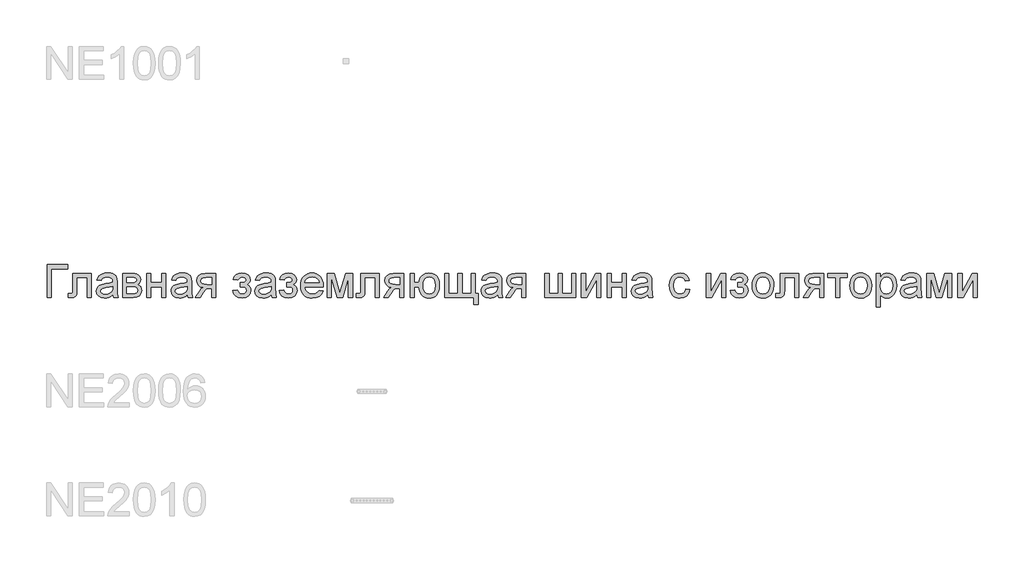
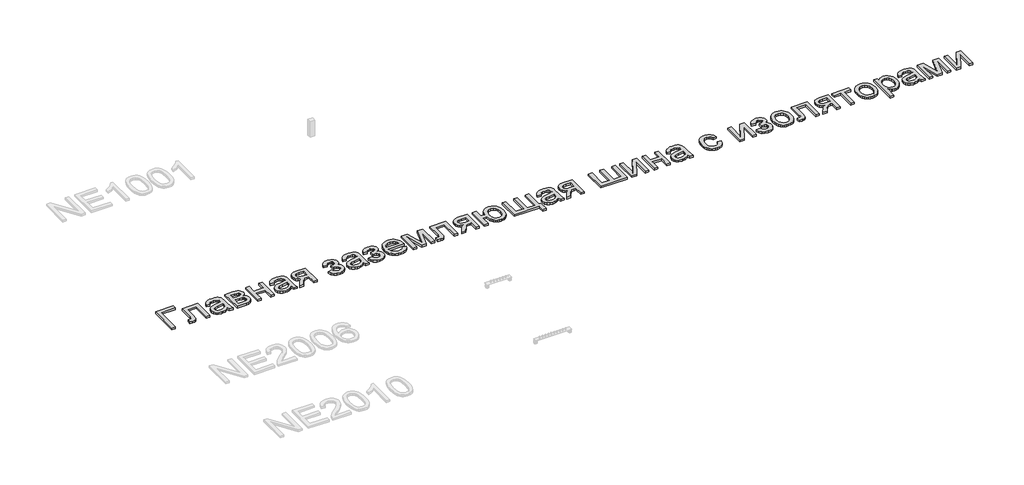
# One storey, part 81 of 124: 1 proxy.
"""IFC4 building model written with IfcOpenShell, lengths in millimetres."""

from ifc_helpers import new_model, si_unit, origin, origin_with_axes, place, context, project, spatial, polyline, outline, extrude, element, save

model = new_model("IFC4")

# Units and contexts
model_context = context("Model", 3, world=origin())
ifc_project = project(units=[si_unit("LENGTHUNIT", "METRE", prefix="MILLI")], contexts=[model_context])

# Site, building, storey
site = spatial("IfcSite", under=ifc_project)
building = spatial("IfcBuilding", under=site)
storey = spatial("IfcBuildingStorey", under=building, Name="Этаж 01", Elevation=0.0)

# Proxy
placement = place(None, origin())
element("IfcBuildingElementProxy", 1, Name="300", ObjectType="300", at=placement, inside=storey, context=model_context, shape_type="SweptSolid", body=[
    extrude(outline(polyline([(45244.5764277, -52773.1294316), (45432.9320092, -52773.1294316), (45432.9320092, -52810.8005479), (45282.247544, -52810.8005479), (45282.247544, -53074.498362), (45244.5764277, -53074.498362), (45244.5764277, -52773.1294316)])), origin_with_axes(), (0.0, 0.0, 1.0), 20.0),
    extrude(outline(polyline([(45480.0209046, -52853.1805537), (45649.540928, -52853.1805537), (45649.540928, -53074.2776328), (45611.8698117, -53074.2776328), (45611.8698117, -52890.85167), (45517.6920209, -52890.85167), (45517.6920209, -52996.4338026), (45515.1536351, -53045.1413788), (45510.3987604, -53056.1686416), (45501.2109075, -53065.7059823), (45487.2681799, -53072.3002671), (45468.2486808, -53074.498362), (45437.6408988, -53072.5853756), (45437.6408988, -53036.8272457), (45454.4898941, -53036.8272457), (45471.5228305, -53034.5095891), (45478.3286474, -53027.1519492), (45480.0209046, -52994.3000871), (45480.0209046, -52853.1805537)])), origin_with_axes(), (0.0, 0.0, 1.0), 20.0),
    extrude(outline(polyline([(45847.3142886, -53046.2450248), (45829.315662, -53061.6776745), (45810.7836065, -53071.7760352), (45791.2950578, -53077.3494475), (45770.4269516, -53079.2072515), (45738.9454499, -53074.7374853), (45715.7228989, -53061.3281866), (45701.4030922, -53040.9659181), (45696.6298234, -53015.6372428), (45698.4324451, -53000.0206521), (45703.8403105, -52985.8388012), (45712.1820347, -52973.6986953), (45722.7862332, -52964.2073398), (45749.1633723, -52951.8465048), (45781.757717, -52946.1811221), (45820.2749619, -52940.2214338), (45847.0935594, -52933.2316759), (45847.3142886, -52924.8439664), (45844.7207205, -52908.0317592), (45836.9400163, -52897.0320875), (45819.5391979, -52888.8651072), (45795.2957745, -52886.1427805), (45772.8549728, -52887.9545993), (45757.1831998, -52893.3900558), (45746.4962278, -52903.4424313), (45739.0098292, -52919.1050072), (45701.3387129, -52914.3961177), (45707.8778154, -52893.794726), (45717.6358853, -52877.6079182), (45731.5234306, -52865.228689), (45750.4509593, -52856.0500333), (45773.5999338, -52850.3662564), (45800.1518168, -52848.4716642), (45825.6184479, -52850.1455272), (45845.8059724, -52855.1671165), (45861.02709, -52862.7178944), (45871.5945003, -52871.9793237), (45878.6026523, -52883.4296508), (45883.1459949, -52897.5471223), (45884.9854049, -52930.5093491), (45884.9854049, -52977.3775153), (45886.8983913, -53042.8237222), (45894.403184, -53074.498362), (45856.7320677, -53074.498362), (45847.3142886, -53046.2450248)]), holes=[polyline([(45847.3142886, -52970.9027922), (45786.540183, -52982.4542868), (45754.1297792, -52988.5611279), (45739.4512876, -52998.4939418), (45734.3009397, -53012.9884924), (45737.1060399, -53024.1904992), (45745.5213405, -53033.3691549), (45759.3629006, -53039.4943902), (45778.4467791, -53041.5361352), (45798.6802888, -53039.282858), (45816.5593538, -53032.5230264), (45831.0539044, -53022.5626213), (45841.1338711, -53010.707624), (45845.6036373, -52998.4939418), (45847.0935594, -52981.57137), (45847.3142886, -52970.9027922)])]), origin_with_axes(), (0.0, 0.0, 1.0), 20.0),
    extrude(outline(polyline([(45936.7831898, -52853.1805537), (46019.7773679, -52853.1805537), (46046.4580096, -52854.4405495), (46065.2843707, -52858.220537), (46079.1351278, -52865.3574477), (46090.8889576, -52876.6882132), (46098.9179821, -52891.4494783), (46101.5943237, -52908.8778878), (46099.9756429, -52922.9217829), (46095.1196005, -52935.0342976), (46087.0078025, -52945.2706141), (46075.6218548, -52953.6859148), (46089.5645824, -52961.5126042), (46100.9321361, -52974.1033655), (46108.4921111, -52990.4649173), (46111.0121027, -53009.6039781), (46104.6293501, -53038.3171678), (46089.4542178, -53058.5322834), (46065.4315235, -53070.5068424), (46032.506085, -53074.498362), (45936.7831898, -53074.498362), (45936.7831898, -52853.1805537)]), holes=[polyline([(45974.4543061, -52937.9405654), (46011.683964, -52937.9405654), (46042.4021106, -52936.027579), (46057.3381196, -52928.3756335), (46062.2769354, -52922.0480632), (46063.9232073, -52914.5432705), (46061.0353337, -52903.3044755), (46052.3717127, -52896.0755943), (46036.7183338, -52892.1576511), (46012.8611864, -52890.85167), (45974.4543061, -52890.85167), (45974.4543061, -52937.9405654)]), polyline([(45974.4543061, -53036.8272457), (46020.6602847, -53036.8272457), (46045.8418073, -53035.1257915), (46061.642339, -53030.0214288), (46070.122019, -53020.7416055), (46073.3409864, -53006.5137693), (46071.7315027, -52997.0867932), (46066.9030515, -52988.3771869), (46059.4902293, -52981.562173), (46050.1276325, -52977.8189737), (46016.9814648, -52975.6116817), (45974.4543061, -52975.6116817), (45974.4543061, -53036.8272457)])]), origin_with_axes(), (0.0, 0.0, 1.0), 20.0),
    extrude(outline(polyline([(46158.1009981, -52853.1805537), (46195.7721144, -52853.1805537), (46195.7721144, -52937.9405654), (46294.6587947, -52937.9405654), (46294.6587947, -52853.1805537), (46332.329911, -52853.1805537), (46332.329911, -53074.498362), (46294.6587947, -53074.498362), (46294.6587947, -52975.6116817), (46195.7721144, -52975.6116817), (46195.7721144, -53074.498362), (46158.1009981, -53074.498362), (46158.1009981, -52853.1805537)])), origin_with_axes(), (0.0, 0.0, 1.0), 20.0),
    extrude(outline(polyline([(46530.1032716, -53046.2450248), (46512.104645, -53061.6776745), (46493.5725895, -53071.7760352), (46474.0840408, -53077.3494475), (46453.2159346, -53079.2072515), (46421.7344329, -53074.7374853), (46398.511882, -53061.3281866), (46384.1920753, -53040.9659181), (46379.4188064, -53015.6372428), (46381.2214282, -53000.0206521), (46386.6292935, -52985.8388012), (46394.9710178, -52973.6986953), (46405.5752163, -52964.2073398), (46431.9523553, -52951.8465048), (46464.5467001, -52946.1811221), (46503.063945, -52940.2214338), (46529.8825424, -52933.2316759), (46530.1032716, -52924.8439664), (46527.5097036, -52908.0317592), (46519.7289994, -52897.0320875), (46502.328181, -52888.8651072), (46478.0847575, -52886.1427805), (46455.6439558, -52887.9545993), (46439.9721828, -52893.3900558), (46429.2852109, -52903.4424313), (46421.7988123, -52919.1050072), (46384.1276959, -52914.3961177), (46390.6667984, -52893.794726), (46400.4248683, -52877.6079182), (46414.3124137, -52865.228689), (46433.2399423, -52856.0500333), (46456.3889168, -52850.3662564), (46482.9407999, -52848.4716642), (46508.407431, -52850.1455272), (46528.5949555, -52855.1671165), (46543.816073, -52862.7178944), (46554.3834833, -52871.9793237), (46561.3916353, -52883.4296508), (46565.934978, -52897.5471223), (46567.7743879, -52930.5093491), (46567.7743879, -52977.3775153), (46569.6873743, -53042.8237222), (46577.192167, -53074.498362), (46539.5210507, -53074.498362), (46530.1032716, -53046.2450248)]), holes=[polyline([(46530.1032716, -52970.9027922), (46469.329166, -52982.4542868), (46436.9187623, -52988.5611279), (46422.2402706, -52998.4939418), (46417.0899227, -53012.9884924), (46419.8950229, -53024.1904992), (46428.3103236, -53033.3691549), (46442.1518836, -53039.4943902), (46461.2357621, -53041.5361352), (46481.4692719, -53039.282858), (46499.3483368, -53032.5230264), (46513.8428874, -53022.5626213), (46523.9228541, -53010.707624), (46528.3926204, -52998.4939418), (46529.8825424, -52981.57137), (46530.1032716, -52970.9027922)])]), origin_with_axes(), (0.0, 0.0, 1.0), 20.0),
    extrude(outline(polyline([(46789.0921962, -52853.1805537), (46789.0921962, -53074.498362), (46751.4210799, -53074.498362), (46751.4210799, -52989.7383503), (46730.8932646, -52989.7383503), (46702.934233, -52994.5208163), (46691.7690144, -53004.9502708), (46676.6674585, -53026.6737026), (46646.6482877, -53074.498362), (46603.0910595, -53074.498362), (46640.9093286, -53014.018562), (46657.6111712, -52992.3135243), (46672.9886386, -52982.675016), (46647.2368989, -52974.7839472), (46629.1371047, -52959.7927559), (46618.4317387, -52939.8535518), (46614.8632833, -52917.1184445), (46619.7377198, -52891.3299166), (46634.3610291, -52870.9124659), (46658.2181765, -52857.6135317), (46690.7941271, -52853.1805537), (46789.0921962, -52853.1805537)]), holes=[polyline([(46751.4210799, -52890.85167), (46701.7570106, -52890.85167), (46676.1064385, -52893.0313708), (46661.5475085, -52899.5704733), (46654.7876768, -52909.0342376), (46652.5343996, -52919.987924), (46655.8545346, -52934.3445189), (46665.8149397, -52944.3049239), (46684.2182365, -52950.1266565), (46712.8670468, -52952.067234), (46751.4210799, -52952.067234), (46751.4210799, -52890.85167)])]), origin_with_axes(), (0.0, 0.0, 1.0), 20.0),
    extrude(outline(polyline([(47015.1188941, -52975.6116817), (47015.1188941, -52937.9405654), (47044.8437593, -52936.4690374), (47059.8533447, -52928.6331509), (47065.1508454, -52921.2847081), (47066.916679, -52912.2624021), (47064.5530372, -52901.547839), (47057.4621117, -52893.242903), (47046.637184, -52887.9178111), (47033.0715354, -52886.1427805), (47019.3587341, -52887.908614), (47007.8716188, -52893.2061148), (46998.6101895, -52902.0352827), (46991.5744464, -52914.3961177), (46949.1944405, -52909.6872282), (46960.4332355, -52882.9054189), (46977.5213542, -52863.7755552), (47000.4587966, -52852.2976369), (47029.2455627, -52848.4716642), (47060.7362615, -52853.1345685), (47084.5750148, -52867.1232813), (47099.5846002, -52887.5867173), (47104.5877953, -52911.6737909), (47102.8081661, -52924.034626), (47097.4692787, -52935.0710858), (47088.5711329, -52944.7831705), (47076.1137289, -52953.17088), (47090.6542647, -52963.6371228), (47101.0193399, -52976.6417513), (47107.2273486, -52992.2215538), (47109.2966848, -53010.4133184), (47104.0451694, -53038.1424238), (47088.2906229, -53060.114176), (47063.0999033, -53074.4339827), (47029.5398683, -53079.2072515), (46996.7155973, -53074.7926676), (46971.598454, -53061.5489158), (46954.1884386, -53039.4759961), (46944.485551, -53008.5739085), (46986.8655568, -53003.8650189), (46993.2115213, -53019.7943093), (47003.861705, -53031.6768978), (47017.5837034, -53039.0713259), (47033.1451118, -53041.5361352), (47048.30185, -53039.1724934), (47060.6626851, -53032.081568), (47068.8848477, -53021.3118225), (47071.6255685, -53007.9117209), (47069.9241143, -52997.2983253), (47064.8197516, -52988.1196695), (47050.325201, -52977.5246681), (47022.476534, -52975.3909525), (47015.1188941, -52975.6116817)])), origin_with_axes(), (0.0, 0.0, 1.0), 20.0),
    extrude(outline(polyline([(47297.6522664, -53046.2450248), (47279.6536398, -53061.6776745), (47261.1215842, -53071.7760352), (47241.6330356, -53077.3494475), (47220.7649294, -53079.2072515), (47189.2834276, -53074.7374853), (47166.0608767, -53061.3281866), (47151.74107, -53040.9659181), (47146.9678011, -53015.6372428), (47148.7704229, -53000.0206521), (47154.1782883, -52985.8388012), (47162.5200125, -52973.6986953), (47173.124211, -52964.2073398), (47199.5013501, -52951.8465048), (47232.0956948, -52946.1811221), (47270.6129397, -52940.2214338), (47297.4315372, -52933.2316759), (47297.6522664, -52924.8439664), (47295.0586983, -52908.0317592), (47287.2779941, -52897.0320875), (47269.8771757, -52888.8651072), (47245.6337523, -52886.1427805), (47223.1929505, -52887.9545993), (47207.5211776, -52893.3900558), (47196.8342056, -52903.4424313), (47189.347807, -52919.1050072), (47151.6766907, -52914.3961177), (47158.2157931, -52893.794726), (47167.9738631, -52877.6079182), (47181.8614084, -52865.228689), (47200.788937, -52856.0500333), (47223.9379116, -52850.3662564), (47250.4897946, -52848.4716642), (47275.9564257, -52850.1455272), (47296.1439502, -52855.1671165), (47311.3650677, -52862.7178944), (47321.9324781, -52871.9793237), (47328.9406301, -52883.4296508), (47333.4839727, -52897.5471223), (47335.3233827, -52930.5093491), (47335.3233827, -52977.3775153), (47337.2363691, -53042.8237222), (47344.7411618, -53074.498362), (47307.0700454, -53074.498362), (47297.6522664, -53046.2450248)]), holes=[polyline([(47297.6522664, -52970.9027922), (47236.8781608, -52982.4542868), (47204.467757, -52988.5611279), (47189.7892654, -52998.4939418), (47184.6389175, -53012.9884924), (47187.4440177, -53024.1904992), (47195.8593183, -53033.3691549), (47209.7008784, -53039.4943902), (47228.7847569, -53041.5361352), (47249.0182666, -53039.282858), (47266.8973316, -53032.5230264), (47281.3918822, -53022.5626213), (47291.4718489, -53010.707624), (47295.9416151, -52998.4939418), (47297.4315372, -52981.57137), (47297.6522664, -52970.9027922)])]), origin_with_axes(), (0.0, 0.0, 1.0), 20.0),
    extrude(outline(polyline([(47438.9189525, -52975.6116817), (47438.9189525, -52937.9405654), (47468.6438177, -52936.4690374), (47483.6534031, -52928.6331509), (47488.9509039, -52921.2847081), (47490.7167374, -52912.2624021), (47488.3530956, -52901.547839), (47481.2621702, -52893.242903), (47470.4372425, -52887.9178111), (47456.8715939, -52886.1427805), (47443.1587925, -52887.908614), (47431.6716772, -52893.2061148), (47422.410248, -52902.0352827), (47415.3745048, -52914.3961177), (47372.994499, -52909.6872282), (47384.2332939, -52882.9054189), (47401.3214126, -52863.7755552), (47424.258855, -52852.2976369), (47453.0456211, -52848.4716642), (47484.5363199, -52853.1345685), (47508.3750732, -52867.1232813), (47523.3846586, -52887.5867173), (47528.3878537, -52911.6737909), (47526.6082246, -52924.034626), (47521.2693371, -52935.0710858), (47512.3711914, -52944.7831705), (47499.9137873, -52953.17088), (47514.4543232, -52963.6371228), (47524.8193984, -52976.6417513), (47531.0274071, -52992.2215538), (47533.0967433, -53010.4133184), (47527.8452278, -53038.1424238), (47512.0906814, -53060.114176), (47486.8999617, -53074.4339827), (47453.3399267, -53079.2072515), (47420.5156557, -53074.7926676), (47395.3985125, -53061.5489158), (47377.9884971, -53039.4759961), (47368.2856094, -53008.5739085), (47410.6656153, -53003.8650189), (47417.0115797, -53019.7943093), (47427.6617635, -53031.6768978), (47441.3837619, -53039.0713259), (47456.9451703, -53041.5361352), (47472.1019085, -53039.1724934), (47484.4627435, -53032.081568), (47492.6849061, -53021.3118225), (47495.425627, -53007.9117209), (47493.7241727, -52997.2983253), (47488.6198101, -52988.1196695), (47474.1252595, -52977.5246681), (47446.2765924, -52975.3909525), (47438.9189525, -52975.6116817)])), origin_with_axes(), (0.0, 0.0, 1.0), 20.0),
    extrude(outline(polyline([(47735.137535, -53008.5739085), (47772.0728874, -53013.282798), (47758.7647562, -53041.1130709), (47737.528768, -53061.9167978), (47708.8431694, -53074.8846381), (47673.186207, -53079.2072515), (47649.8119048, -53077.3425497), (47628.9851853, -53071.7484441), (47610.7060487, -53062.4249348), (47594.9744949, -53049.3720217), (47582.3239528, -53032.9529884), (47573.2878513, -53013.5311184), (47567.8661904, -52991.1064115), (47566.0589701, -52965.6788678), (47567.8845845, -52939.3891007), (47573.3614277, -52916.2171336), (47582.4894997, -52896.1629663), (47595.2688005, -52879.226599), (47610.9589676, -52865.771315), (47628.8196384, -52856.1603979), (47648.8508131, -52850.3938476), (47671.0524915, -52848.4716642), (47692.5390993, -52850.3892491), (47711.9701664, -52856.1420038), (47729.3456929, -52865.7299283), (47744.6656787, -52879.1530226), (47757.1713673, -52896.0526017), (47766.104002, -52916.0699808), (47771.4635828, -52939.2051598), (47773.2501097, -52965.4581386), (47773.0293805, -52975.6116817), (47603.7300864, -52975.6116817), (47610.2507947, -53003.8098366), (47625.3983359, -53024.5399871), (47647.2597234, -53037.2870982), (47673.921971, -53041.5361352), (47693.9715398, -53039.5679666), (47710.8573234, -53033.6634605), (47724.5793218, -53023.4547352), (47735.137535, -53008.5739085)]), holes=[polyline([(47603.7300864, -52937.9405654), (47735.5789934, -52937.9405654), (47730.4838278, -52918.0381495), (47720.4958316, -52903.8011162), (47698.5332765, -52890.5573644), (47670.9053387, -52886.1427805), (47645.512284, -52889.6652506), (47624.5154191, -52900.2326609), (47609.9197009, -52916.7045772), (47603.7300864, -52937.9405654)])]), origin_with_axes(), (0.0, 0.0, 1.0), 20.0),
    extrude(outline(polyline([(47810.921226, -52853.1805537), (47875.7420336, -52853.1805537), (47925.7004085, -53030.3525226), (47979.5583326, -52853.1805537), (48041.6568134, -52853.1805537), (48041.6568134, -53074.498362), (48003.9856971, -53074.498362), (48003.9856971, -52896.2963235), (47949.8334674, -53074.498362), (47900.3901273, -53074.498362), (47848.5923423, -52887.7614613), (47848.5923423, -53074.498362), (47810.921226, -53074.498362), (47810.921226, -52853.1805537)])), origin_with_axes(), (0.0, 0.0, 1.0), 20.0),
    extrude(outline(polyline([(48116.999046, -52853.1805537), (48286.5190694, -52853.1805537), (48286.5190694, -53074.2776328), (48248.8479531, -53074.2776328), (48248.8479531, -52890.85167), (48154.6701623, -52890.85167), (48154.6701623, -52996.4338026), (48152.1317766, -53045.1413788), (48147.3769018, -53056.1686416), (48138.189049, -53065.7059823), (48124.2463213, -53072.3002671), (48105.2268222, -53074.498362), (48074.6190402, -53072.5853756), (48074.6190402, -53036.8272457), (48091.4680356, -53036.8272457), (48108.5009719, -53034.5095891), (48115.3067889, -53027.1519492), (48116.999046, -52994.3000871), (48116.999046, -52853.1805537)])), origin_with_axes(), (0.0, 0.0, 1.0), 20.0),
    extrude(outline(polyline([(48512.5457672, -52853.1805537), (48512.5457672, -53074.498362), (48474.8746509, -53074.498362), (48474.8746509, -52989.7383503), (48454.3468356, -52989.7383503), (48426.387804, -52994.5208163), (48415.2225854, -53004.9502708), (48400.1210295, -53026.6737026), (48370.1018587, -53074.498362), (48326.5446305, -53074.498362), (48364.3628996, -53014.018562), (48381.0647422, -52992.3135243), (48396.4422096, -52982.675016), (48370.6904699, -52974.7839472), (48352.5906757, -52959.7927559), (48341.8853097, -52939.8535518), (48338.3168543, -52917.1184445), (48343.1912908, -52891.3299166), (48357.8146001, -52870.9124659), (48381.6717475, -52857.6135317), (48414.2476981, -52853.1805537), (48512.5457672, -52853.1805537)]), holes=[polyline([(48474.8746509, -52890.85167), (48425.2105816, -52890.85167), (48399.5600095, -52893.0313708), (48385.0010795, -52899.5704733), (48378.2412479, -52909.0342376), (48375.9879706, -52919.987924), (48379.3081056, -52934.3445189), (48389.2685107, -52944.3049239), (48407.6718075, -52950.1266565), (48436.3206178, -52952.067234), (48474.8746509, -52952.067234), (48474.8746509, -52890.85167)])]), origin_with_axes(), (0.0, 0.0, 1.0), 20.0),
    extrude(outline(polyline([(48569.0524417, -52853.1805537), (48606.723558, -52853.1805537), (48606.723558, -52937.9405654), (48649.1035639, -52937.9405654), (48658.8800279, -52899.5336851), (48667.4033938, -52884.1930059), (48678.3501825, -52871.4275007), (48691.4122926, -52861.3843222), (48706.281623, -52854.2106233), (48741.4419446, -52848.4716642), (48770.9920659, -52851.8469815), (48793.5708234, -52861.9729334), (48810.9900358, -52878.0217854), (48825.0615221, -52899.1658031), (48834.3597396, -52926.9776819), (48837.4591454, -52963.0301175), (48835.8565594, -52989.8855031), (48831.0488016, -53013.282798), (48823.0358719, -53033.2220021), (48811.8177703, -53049.7031155), (48797.8543493, -53062.611175), (48781.6054615, -53071.8312175), (48763.0711067, -53077.363243), (48742.251285, -53079.2072515), (48722.847809, -53077.4782062), (48705.4722826, -53072.29107), (48690.1247056, -53063.6458431), (48676.8050781, -53051.5425255), (48665.8444939, -53036.4225755), (48657.5740468, -53018.7274515), (48649.1035639, -52975.6116817), (48606.723558, -52975.6116817), (48606.723558, -53074.498362), (48569.0524417, -53074.498362), (48569.0524417, -52853.1805537)]), holes=[polyline([(48743.8699658, -52886.1427805), (48719.8564686, -52891.0172169), (48701.8210538, -52905.6405262), (48690.5362736, -52929.0562152), (48686.7746802, -52960.3077907), (48690.5638647, -52996.7189112), (48701.9314184, -53021.9280249), (48719.6449364, -53036.6341076), (48742.4720142, -53041.5361352), (48765.3634714, -53037.0019896), (48783.7115859, -53023.3995529), (48795.7689183, -52999.6987553), (48799.7880291, -52964.8695274), (48796.3115442, -52930.4265756), (48785.8820897, -52905.8244672), (48768.426089, -52891.0632022), (48743.8699658, -52886.1427805)])]), origin_with_axes(), (0.0, 0.0, 1.0), 20.0),
    extrude(outline(polyline([(48884.5480408, -52853.1805537), (48922.2191571, -52853.1805537), (48922.2191571, -53036.8272457), (49006.9791688, -53036.8272457), (49006.9791688, -52853.1805537), (49044.6502851, -52853.1805537), (49044.6502851, -53036.8272457), (49129.4102968, -53036.8272457), (49129.4102968, -52853.1805537), (49167.0814131, -52853.1805537), (49167.0814131, -53036.8272457), (49190.6258608, -53036.8272457), (49190.6258608, -53135.713926), (49152.9547444, -53135.713926), (49152.9547444, -53074.498362), (48884.5480408, -53074.498362), (48884.5480408, -52853.1805537)])), origin_with_axes(), (0.0, 0.0, 1.0), 20.0),
    extrude(outline(polyline([(49369.5636632, -53046.2450248), (49351.5650366, -53061.6776745), (49333.0329811, -53071.7760352), (49313.5444324, -53077.3494475), (49292.6763262, -53079.2072515), (49261.1948245, -53074.7374853), (49237.9722735, -53061.3281866), (49223.6524669, -53040.9659181), (49218.879198, -53015.6372428), (49220.6818198, -53000.0206521), (49226.0896851, -52985.8388012), (49234.4314093, -52973.6986953), (49245.0356078, -52964.2073398), (49271.4127469, -52951.8465048), (49304.0070917, -52946.1811221), (49342.5243366, -52940.2214338), (49369.342934, -52933.2316759), (49369.5636632, -52924.8439664), (49366.9700951, -52908.0317592), (49359.1893909, -52897.0320875), (49341.7885726, -52888.8651072), (49317.5451491, -52886.1427805), (49295.1043474, -52887.9545993), (49279.4325744, -52893.3900558), (49268.7456024, -52903.4424313), (49261.2592038, -52919.1050072), (49223.5880875, -52914.3961177), (49230.12719, -52893.794726), (49239.8852599, -52877.6079182), (49253.7728052, -52865.228689), (49272.7003339, -52856.0500333), (49295.8493084, -52850.3662564), (49322.4011914, -52848.4716642), (49347.8678225, -52850.1455272), (49368.055347, -52855.1671165), (49383.2764646, -52862.7178944), (49393.8438749, -52871.9793237), (49400.8520269, -52883.4296508), (49405.3953695, -52897.5471223), (49407.2347795, -52930.5093491), (49407.2347795, -52977.3775153), (49409.1477659, -53042.8237222), (49416.6525586, -53074.498362), (49378.9814423, -53074.498362), (49369.5636632, -53046.2450248)]), holes=[polyline([(49369.5636632, -52970.9027922), (49308.7895576, -52982.4542868), (49276.3791538, -52988.5611279), (49261.7006622, -52998.4939418), (49256.5503143, -53012.9884924), (49259.3554145, -53024.1904992), (49267.7707151, -53033.3691549), (49281.6122752, -53039.4943902), (49300.6961537, -53041.5361352), (49320.9296634, -53039.282858), (49338.8087284, -53032.5230264), (49353.303279, -53022.5626213), (49363.3832457, -53010.707624), (49367.8530119, -52998.4939418), (49369.342934, -52981.57137), (49369.5636632, -52970.9027922)])]), origin_with_axes(), (0.0, 0.0, 1.0), 20.0),
    extrude(outline(polyline([(49628.5525878, -52853.1805537), (49628.5525878, -53074.498362), (49590.8814715, -53074.498362), (49590.8814715, -52989.7383503), (49570.3536562, -52989.7383503), (49542.3946245, -52994.5208163), (49531.229406, -53004.9502708), (49516.1278501, -53026.6737026), (49486.1086793, -53074.498362), (49442.551451, -53074.498362), (49480.3697202, -53014.018562), (49497.0715627, -52992.3135243), (49512.4490301, -52982.675016), (49486.6972905, -52974.7839472), (49468.5974963, -52959.7927559), (49457.8921302, -52939.8535518), (49454.3236749, -52917.1184445), (49459.1981113, -52891.3299166), (49473.8214206, -52870.9124659), (49497.678568, -52857.6135317), (49530.2545187, -52853.1805537), (49628.5525878, -52853.1805537)]), holes=[polyline([(49590.8814715, -52890.85167), (49541.2174022, -52890.85167), (49515.56683, -52893.0313708), (49501.0079001, -52899.5704733), (49494.2480684, -52909.0342376), (49491.9947912, -52919.987924), (49495.3149262, -52934.3445189), (49505.2753312, -52944.3049239), (49523.678628, -52950.1266565), (49552.3274384, -52952.067234), (49590.8814715, -52952.067234), (49590.8814715, -52890.85167)])]), origin_with_axes(), (0.0, 0.0, 1.0), 20.0),
    extrude(outline(polyline([(49802.7815007, -52853.1805537), (49840.452617, -52853.1805537), (49840.452617, -53036.8272457), (49925.2126287, -53036.8272457), (49925.2126287, -52853.1805537), (49962.883745, -52853.1805537), (49962.883745, -53036.8272457), (50047.6437567, -53036.8272457), (50047.6437567, -52853.1805537), (50085.314873, -52853.1805537), (50085.314873, -53074.498362), (49802.7815007, -53074.498362), (49802.7815007, -52853.1805537)])), origin_with_axes(), (0.0, 0.0, 1.0), 20.0),
    extrude(outline(polyline([(50137.1126579, -52853.1805537), (50174.7837742, -52853.1805537), (50174.7837742, -53021.9648131), (50267.3428842, -52853.1805537), (50316.0504604, -52853.1805537), (50316.0504604, -53074.498362), (50278.3793441, -53074.498362), (50278.3793441, -52906.7441722), (50186.4088453, -53074.498362), (50137.1126579, -53074.498362), (50137.1126579, -52853.1805537)])), origin_with_axes(), (0.0, 0.0, 1.0), 20.0),
    extrude(outline(polyline([(50372.5571349, -52853.1805537), (50410.2282512, -52853.1805537), (50410.2282512, -52937.9405654), (50509.1149315, -52937.9405654), (50509.1149315, -52853.1805537), (50546.7860478, -52853.1805537), (50546.7860478, -53074.498362), (50509.1149315, -53074.498362), (50509.1149315, -52975.6116817), (50410.2282512, -52975.6116817), (50410.2282512, -53074.498362), (50372.5571349, -53074.498362), (50372.5571349, -52853.1805537)])), origin_with_axes(), (0.0, 0.0, 1.0), 20.0),
    extrude(outline(polyline([(50744.5594084, -53046.2450248), (50726.5607818, -53061.6776745), (50708.0287263, -53071.7760352), (50688.5401776, -53077.3494475), (50667.6720714, -53079.2072515), (50636.1905696, -53074.7374853), (50612.9680187, -53061.3281866), (50598.648212, -53040.9659181), (50593.8749432, -53015.6372428), (50595.6775649, -53000.0206521), (50601.0854303, -52985.8388012), (50609.4271545, -52973.6986953), (50620.031353, -52964.2073398), (50646.4084921, -52951.8465048), (50679.0028368, -52946.1811221), (50717.5200817, -52940.2214338), (50744.3386792, -52933.2316759), (50744.5594084, -52924.8439664), (50741.9658403, -52908.0317592), (50734.1851361, -52897.0320875), (50716.7843177, -52888.8651072), (50692.5408943, -52886.1427805), (50670.1000926, -52887.9545993), (50654.4283196, -52893.3900558), (50643.7413476, -52903.4424313), (50636.254949, -52919.1050072), (50598.5838327, -52914.3961177), (50605.1229352, -52893.794726), (50614.8810051, -52877.6079182), (50628.7685504, -52865.228689), (50647.696079, -52856.0500333), (50670.8450536, -52850.3662564), (50697.3969366, -52848.4716642), (50722.8635677, -52850.1455272), (50743.0510922, -52855.1671165), (50758.2722097, -52862.7178944), (50768.8396201, -52871.9793237), (50775.8477721, -52883.4296508), (50780.3911147, -52897.5471223), (50782.2305247, -52930.5093491), (50782.2305247, -52977.3775153), (50784.1435111, -53042.8237222), (50791.6483038, -53074.498362), (50753.9771875, -53074.498362), (50744.5594084, -53046.2450248)]), holes=[polyline([(50744.5594084, -52970.9027922), (50683.7853028, -52982.4542868), (50651.374899, -52988.5611279), (50636.6964074, -52998.4939418), (50631.5460595, -53012.9884924), (50634.3511597, -53024.1904992), (50642.7664603, -53033.3691549), (50656.6080204, -53039.4943902), (50675.6918989, -53041.5361352), (50695.9254086, -53039.282858), (50713.8044736, -53032.5230264), (50728.2990242, -53022.5626213), (50738.3789909, -53010.707624), (50742.8487571, -52998.4939418), (50744.3386792, -52981.57137), (50744.5594084, -52970.9027922)])]), origin_with_axes(), (0.0, 0.0, 1.0), 20.0),
    extrude(outline(polyline([(51093.0172342, -52994.4472399), (51130.6883505, -52999.1561294), (51120.1853196, -53032.6609821), (51100.4484505, -53057.9804604), (51073.3355475, -53073.9005538), (51040.7044145, -53079.2072515), (51019.5764917, -53077.3563453), (51000.6328682, -53071.8036264), (50983.873544, -53062.5490949), (50969.2985192, -53049.5927509), (50957.5010035, -53033.1783162), (50949.0742065, -53013.5495125), (50944.0181284, -52990.7063398), (50942.332769, -52964.6487982), (50945.2114456, -52931.1255514), (50953.8474754, -52902.0720709), (50968.3788142, -52878.6103966), (50988.9434178, -52861.8625688), (51013.5455262, -52851.8193903), (51040.1893797, -52848.4716642), (51072.0203693, -52853.0701891), (51097.4686064, -52866.8657639), (51115.7247504, -52889.1226246), (51125.979461, -52919.1050072), (51088.3083447, -52923.8138968), (51081.4749366, -52907.3787686), (51070.8339499, -52895.5973477), (51056.9739957, -52888.5064223), (51040.4836853, -52886.1427805), (51016.1390943, -52890.7964877), (50996.8160925, -52904.7576094), (50984.2069371, -52928.7803037), (50980.0038853, -52963.6187287), (50984.1149666, -52998.9262031), (50996.4482105, -53023.0316709), (51015.4217244, -53036.9100191), (51039.4536157, -53041.5361352), (51058.9605585, -53038.6482616), (51074.9542282, -53029.9846406), (51086.5884963, -53015.3245431), (51093.0172342, -52994.4472399)])), origin_with_axes(), (0.0, 0.0, 1.0), 20.0),
    extrude(outline(polyline([(51281.3728157, -52853.1805537), (51319.043932, -52853.1805537), (51319.043932, -53021.9648131), (51411.603042, -52853.1805537), (51460.3106182, -52853.1805537), (51460.3106182, -53074.498362), (51422.6395019, -53074.498362), (51422.6395019, -52906.7441722), (51330.6690031, -53074.498362), (51281.3728157, -53074.498362), (51281.3728157, -52853.1805537)])), origin_with_axes(), (0.0, 0.0, 1.0), 20.0),
    extrude(outline(polyline([(51568.6150776, -52975.6116817), (51568.6150776, -52937.9405654), (51598.3399428, -52936.4690374), (51613.3495282, -52928.6331509), (51618.6470289, -52921.2847081), (51620.4128625, -52912.2624021), (51618.0492207, -52901.547839), (51610.9582952, -52893.242903), (51600.1333675, -52887.9178111), (51586.5677189, -52886.1427805), (51572.8549176, -52887.908614), (51561.3678023, -52893.2061148), (51552.106373, -52902.0352827), (51545.0706299, -52914.3961177), (51502.690624, -52909.6872282), (51513.929419, -52882.9054189), (51531.0175377, -52863.7755552), (51553.9549801, -52852.2976369), (51582.7417462, -52848.4716642), (51614.232445, -52853.1345685), (51638.0711983, -52867.1232813), (51653.0807837, -52887.5867173), (51658.0839788, -52911.6737909), (51656.3043496, -52924.034626), (51650.9654622, -52935.0710858), (51642.0673164, -52944.7831705), (51629.6099124, -52953.17088), (51644.1504482, -52963.6371228), (51654.5155234, -52976.6417513), (51660.7235321, -52992.2215538), (51662.7928683, -53010.4133184), (51657.5413529, -53038.1424238), (51641.7868064, -53060.114176), (51616.5960868, -53074.4339827), (51583.0360518, -53079.2072515), (51550.2117808, -53074.7926676), (51525.0946375, -53061.5489158), (51507.6846221, -53039.4759961), (51497.9817345, -53008.5739085), (51540.3617403, -53003.8650189), (51546.7077048, -53019.7943093), (51557.3578885, -53031.6768978), (51571.0798869, -53039.0713259), (51586.6412953, -53041.5361352), (51601.7980335, -53039.1724934), (51614.1588686, -53032.081568), (51622.3810312, -53021.3118225), (51625.121752, -53007.9117209), (51623.4202978, -52997.2983253), (51618.3159351, -52988.1196695), (51603.8213845, -52977.5246681), (51575.9727175, -52975.3909525), (51568.6150776, -52975.6116817)])), origin_with_axes(), (0.0, 0.0, 1.0), 20.0),
    extrude(outline(polyline([(51700.4639846, -52963.8394579), (51702.5011312, -52935.1768519), (51708.6125708, -52910.4781745), (51718.7983036, -52889.7434255), (51733.0583294, -52872.972605), (51747.4149243, -52862.2534434), (51763.2614412, -52854.5968994), (51780.5978802, -52850.002973), (51799.4242413, -52848.4716642), (51820.2072748, -52850.336366), (51838.999147, -52855.9304716), (51855.7998578, -52865.2539809), (51870.6094074, -52878.306894), (51882.6966302, -52894.6477523), (51891.3303608, -52913.8350977), (51896.5105991, -52935.8689299), (51898.2373453, -52960.7492491), (51895.1839247, -52998.8066415), (51886.023663, -53027.7773486), (51871.0232747, -53049.4731893), (51850.4494741, -53065.7059823), (51826.0129125, -53075.8319342), (51799.4242413, -53079.2072515), (51778.3377052, -53077.3494475), (51759.3710891, -53071.7760352), (51742.524393, -53062.4870149), (51727.7976169, -53049.4823863), (51715.8391528, -53032.9828788), (51707.2973927, -53013.2092216), (51702.1723367, -52990.1614146), (51700.4639846, -52963.8394579)]), holes=[polyline([(51738.135101, -52963.7658815), (51742.4945026, -52997.8593454), (51755.5727075, -53022.1487541), (51775.2543943, -53036.6892899), (51799.4242413, -53041.5361352), (51823.4837238, -53036.6616988), (51843.1286224, -53022.0383895), (51856.2068273, -52997.427084), (51860.5662289, -52962.5886591), (51856.1792362, -52929.4884766), (51843.0182578, -52905.5301616), (51823.3457681, -52890.9896258), (51799.4242413, -52886.1427805), (51775.2543943, -52890.9712317), (51755.5727075, -52905.4565852), (51742.4945026, -52929.6908117), (51738.135101, -52963.7658815)])]), origin_with_axes(), (0.0, 0.0, 1.0), 20.0),
    extrude(outline(polyline([(51959.4529093, -52853.1805537), (52128.9729326, -52853.1805537), (52128.9729326, -53074.2776328), (52091.3018163, -53074.2776328), (52091.3018163, -52890.85167), (51997.1240256, -52890.85167), (51997.1240256, -52996.4338026), (51994.5856398, -53045.1413788), (51989.830765, -53056.1686416), (51980.6429122, -53065.7059823), (51966.7001846, -53072.3002671), (51947.6806854, -53074.498362), (51917.0729034, -53072.5853756), (51917.0729034, -53036.8272457), (51933.9218988, -53036.8272457), (51950.9548352, -53034.5095891), (51957.7606521, -53027.1519492), (51959.4529093, -52994.3000871), (51959.4529093, -52853.1805537)])), origin_with_axes(), (0.0, 0.0, 1.0), 20.0),
    extrude(outline(polyline([(52354.9996305, -52853.1805537), (52354.9996305, -53074.498362), (52317.3285142, -53074.498362), (52317.3285142, -52989.7383503), (52296.8006988, -52989.7383503), (52268.8416672, -52994.5208163), (52257.6764486, -53004.9502708), (52242.5748927, -53026.6737026), (52212.5557219, -53074.498362), (52168.9984937, -53074.498362), (52206.8167628, -53014.018562), (52223.5186054, -52992.3135243), (52238.8960728, -52982.675016), (52213.1443331, -52974.7839472), (52195.044539, -52959.7927559), (52184.3391729, -52939.8535518), (52180.7707175, -52917.1184445), (52185.645154, -52891.3299166), (52200.2684633, -52870.9124659), (52224.1256107, -52857.6135317), (52256.7015614, -52853.1805537), (52354.9996305, -52853.1805537)]), holes=[polyline([(52317.3285142, -52890.85167), (52267.6644448, -52890.85167), (52242.0138727, -52893.0313708), (52227.4549427, -52899.5704733), (52220.6951111, -52909.0342376), (52218.4418339, -52919.987924), (52221.7619689, -52934.3445189), (52231.7223739, -52944.3049239), (52250.1256707, -52950.1266565), (52278.7744811, -52952.067234), (52317.3285142, -52952.067234), (52317.3285142, -52890.85167)])]), origin_with_axes(), (0.0, 0.0, 1.0), 20.0),
    extrude(outline(polyline([(52392.6707468, -52853.1805537), (52571.6085492, -52853.1805537), (52571.6085492, -52890.85167), (52500.9752062, -52890.85167), (52500.9752062, -53074.498362), (52463.3040898, -53074.498362), (52463.3040898, -52890.85167), (52392.6707468, -52890.85167), (52392.6707468, -52853.1805537)])), origin_with_axes(), (0.0, 0.0, 1.0), 20.0),
    extrude(outline(polyline([(52595.1529969, -52963.8394579), (52597.1901435, -52935.1768519), (52603.3015831, -52910.4781745), (52613.4873159, -52889.7434255), (52627.7473417, -52872.972605), (52642.1039366, -52862.2534434), (52657.9504535, -52854.5968994), (52675.2868925, -52850.002973), (52694.1132536, -52848.4716642), (52714.8962871, -52850.336366), (52733.6881592, -52855.9304716), (52750.4888701, -52865.2539809), (52765.2984197, -52878.306894), (52777.3856425, -52894.6477523), (52786.0193731, -52913.8350977), (52791.1996114, -52935.8689299), (52792.9263575, -52960.7492491), (52789.872937, -52998.8066415), (52780.7126753, -53027.7773486), (52765.7122869, -53049.4731893), (52745.1384863, -53065.7059823), (52720.7019248, -53075.8319342), (52694.1132536, -53079.2072515), (52673.0267175, -53077.3494475), (52654.0601014, -53071.7760352), (52637.2134053, -53062.4870149), (52622.4866292, -53049.4823863), (52610.5281651, -53032.9828788), (52601.986405, -53013.2092216), (52596.8613489, -52990.1614146), (52595.1529969, -52963.8394579)]), holes=[polyline([(52632.8241132, -52963.7658815), (52637.1835149, -52997.8593454), (52650.2617198, -53022.1487541), (52669.9434065, -53036.6892899), (52694.1132536, -53041.5361352), (52718.1727361, -53036.6616988), (52737.8176346, -53022.0383895), (52750.8958396, -52997.427084), (52755.2552412, -52962.5886591), (52750.8682484, -52929.4884766), (52737.70727, -52905.5301616), (52718.0347804, -52890.9896258), (52694.1132536, -52886.1427805), (52669.9434065, -52890.9712317), (52650.2617198, -52905.4565852), (52637.1835149, -52929.6908117), (52632.8241132, -52963.7658815)])]), origin_with_axes(), (0.0, 0.0, 1.0), 20.0),
    extrude(outline(polyline([(52835.3063634, -53159.2583737), (52835.3063634, -52853.1805537), (52872.9774797, -52853.1805537), (52872.9774797, -52890.115906), (52885.2647383, -52871.8965502), (52899.0235249, -52858.8827246), (52915.0631799, -52851.0744293), (52934.1930437, -52848.4716642), (52959.6688718, -52852.1136959), (52981.9441266, -52863.0397912), (53000.080709, -52880.5877623), (53013.1405198, -52904.0954218), (53021.0315886, -52931.8521184), (53023.6619449, -52962.1472007), (53020.6912978, -52994.3644664), (53011.7793565, -53023.1788237), (52997.2112294, -53047.1279416), (52977.2720253, -53064.7494891), (52954.0494744, -53075.5928109), (52929.6313069, -53079.2072515), (52912.313262, -53076.7884274), (52896.8530212, -53069.5319551), (52883.6184664, -53058.5782687), (52872.9774797, -53045.0678024), (52872.9774797, -53159.2583737), (52835.3063634, -53159.2583737)]), holes=[polyline([(52872.9774797, -52965.6052914), (52877.0517728, -52999.3768586), (52889.2746521, -53022.9948827), (52907.3100669, -53036.9008221), (52928.8219665, -53041.5361352), (52950.6833541, -53036.7352752), (52969.1786214, -53022.3326951), (52981.7877768, -52997.8501483), (52985.9908286, -52962.8093883), (52981.8889443, -52929.2217621), (52969.5832916, -52905.2726442), (52951.5754679, -52890.9252464), (52930.3670709, -52886.1427805), (52909.0759005, -52891.2287491), (52890.378298, -52906.4866548), (52877.3276843, -52931.4382511), (52872.9774797, -52965.6052914)])]), origin_with_axes(), (0.0, 0.0, 1.0), 20.0),
    extrude(outline(polyline([(53207.3086369, -53046.2450248), (53189.3100103, -53061.6776745), (53170.7779548, -53071.7760352), (53151.2894061, -53077.3494475), (53130.4212999, -53079.2072515), (53098.9397982, -53074.7374853), (53075.7172472, -53061.3281866), (53061.3974406, -53040.9659181), (53056.6241717, -53015.6372428), (53058.4267934, -53000.0206521), (53063.8346588, -52985.8388012), (53072.176383, -52973.6986953), (53082.7805815, -52964.2073398), (53109.1577206, -52951.8465048), (53141.7520653, -52946.1811221), (53180.2693102, -52940.2214338), (53207.0879077, -52933.2316759), (53207.3086369, -52924.8439664), (53204.7150688, -52908.0317592), (53196.9343646, -52897.0320875), (53179.5335463, -52888.8651072), (53155.2901228, -52886.1427805), (53132.8493211, -52887.9545993), (53117.1775481, -52893.3900558), (53106.4905761, -52903.4424313), (53099.0041775, -52919.1050072), (53061.3330612, -52914.3961177), (53067.8721637, -52893.794726), (53077.6302336, -52877.6079182), (53091.5177789, -52865.228689), (53110.4453076, -52856.0500333), (53133.5942821, -52850.3662564), (53160.1461651, -52848.4716642), (53185.6127962, -52850.1455272), (53205.8003207, -52855.1671165), (53221.0214383, -52862.7178944), (53231.5888486, -52871.9793237), (53238.5970006, -52883.4296508), (53243.1403432, -52897.5471223), (53244.9797532, -52930.5093491), (53244.9797532, -52977.3775153), (53246.8927396, -53042.8237222), (53254.3975323, -53074.498362), (53216.726416, -53074.498362), (53207.3086369, -53046.2450248)]), holes=[polyline([(53207.3086369, -52970.9027922), (53146.5345313, -52982.4542868), (53114.1241275, -52988.5611279), (53099.4456359, -52998.4939418), (53094.295288, -53012.9884924), (53097.1003882, -53024.1904992), (53105.5156888, -53033.3691549), (53119.3572489, -53039.4943902), (53138.4411274, -53041.5361352), (53158.6746371, -53039.282858), (53176.5537021, -53032.5230264), (53191.0482527, -53022.5626213), (53201.1282194, -53010.707624), (53205.5979856, -52998.4939418), (53207.0879077, -52981.57137), (53207.3086369, -52970.9027922)])]), origin_with_axes(), (0.0, 0.0, 1.0), 20.0),
    extrude(outline(polyline([(53296.7775381, -52853.1805537), (53361.5983457, -52853.1805537), (53411.5567206, -53030.3525226), (53465.4146447, -52853.1805537), (53527.5131255, -52853.1805537), (53527.5131255, -53074.498362), (53489.8420092, -53074.498362), (53489.8420092, -52896.2963235), (53435.6897795, -53074.498362), (53386.2464393, -53074.498362), (53334.4486544, -52887.7614613), (53334.4486544, -53074.498362), (53296.7775381, -53074.498362), (53296.7775381, -52853.1805537)])), origin_with_axes(), (0.0, 0.0, 1.0), 20.0),
    extrude(outline(polyline([(53584.0198, -52853.1805537), (53621.6909163, -52853.1805537), (53621.6909163, -53021.9648131), (53714.2500262, -52853.1805537), (53762.9576024, -52853.1805537), (53762.9576024, -53074.498362), (53725.2864861, -53074.498362), (53725.2864861, -52906.7441722), (53633.3159873, -53074.498362), (53584.0198, -53074.498362), (53584.0198, -52853.1805537)])), origin_with_axes(), (0.0, 0.0, 1.0), 20.0),
])

save(model, "model.ifc")
